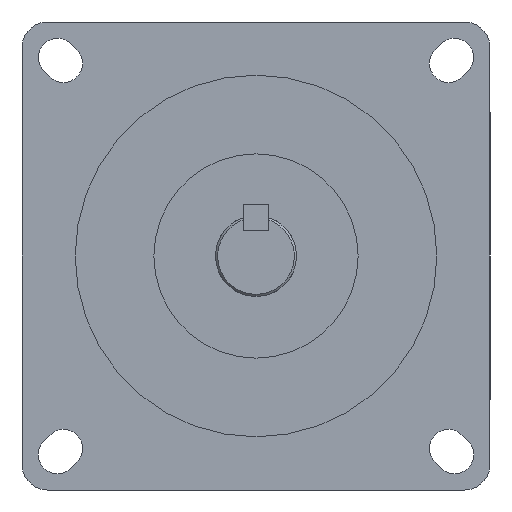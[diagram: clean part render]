
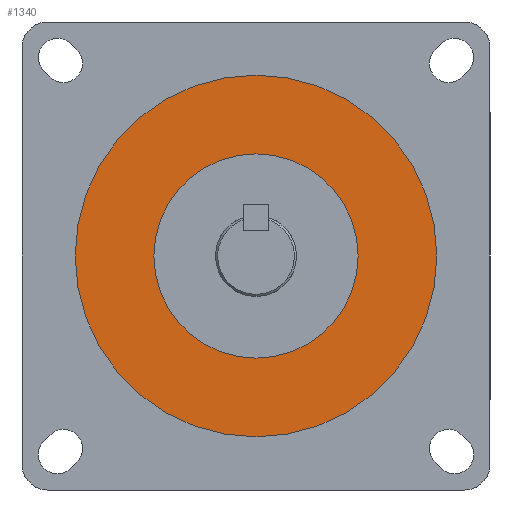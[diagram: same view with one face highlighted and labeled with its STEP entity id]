
A CAD part, left-side view. The second image highlights one B-rep face of the part: STEP entity #1340.
In plain terms, the highlighted planar face has unit normal (-1, 0, 0).
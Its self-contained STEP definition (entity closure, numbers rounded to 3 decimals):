
#14 = ORIENTED_EDGE ( 'NONE', *, *, #438, .F. ) ;
#38 = CARTESIAN_POINT ( 'NONE',  ( -3.5, 0., 0. ) ) ;
#219 = VERTEX_POINT ( 'NONE', #3077 ) ;
#262 = AXIS2_PLACEMENT_3D ( 'NONE', #2986, #2535, #2086 ) ;
#277 = CARTESIAN_POINT ( 'NONE',  ( -3.5, 0., 0. ) ) ;
#310 = AXIS2_PLACEMENT_3D ( 'NONE', #277, #4159, #3719 ) ;
#339 = AXIS2_PLACEMENT_3D ( 'NONE', #358, #4239, #3804 ) ;
#358 = CARTESIAN_POINT ( 'NONE',  ( -3.5, 0., 0. ) ) ;
#367 = FACE_BOUND ( 'NONE', #2249, .T. ) ;
#386 = VERTEX_POINT ( 'NONE', #585 ) ;
#438 = EDGE_CURVE ( 'NONE', #2915, #219, #4322, .T. ) ;
#585 = CARTESIAN_POINT ( 'NONE',  ( -3.5, 0., -42.5 ) ) ;
#615 = CARTESIAN_POINT ( 'NONE',  ( -3.5, 0., 42.5 ) ) ;
#841 = FACE_OUTER_BOUND ( 'NONE', #3035, .T. ) ;
#849 = VERTEX_POINT ( 'NONE', #615 ) ;
#986 = ORIENTED_EDGE ( 'NONE', *, *, #1557, .T. ) ;
#1340 = ADVANCED_FACE ( 'NONE', ( #841, #367 ), #3460, .T. ) ;
#1349 = CIRCLE ( 'NONE', #339, 24. ) ;
#1505 = DIRECTION ( 'NONE',  ( 0., 0., 1. ) ) ;
#1557 = EDGE_CURVE ( 'NONE', #849, #386, #3395, .T. ) ;
#1929 = DIRECTION ( 'NONE',  ( -1., 0., 0. ) ) ;
#2086 = DIRECTION ( 'NONE',  ( 0., 0., 1. ) ) ;
#2123 = DIRECTION ( 'NONE',  ( 0., 0., 1. ) ) ;
#2249 = EDGE_LOOP ( 'NONE', ( #3817, #14 ) ) ;
#2380 = CARTESIAN_POINT ( 'NONE',  ( -3.5, 0., 0. ) ) ;
#2440 = AXIS2_PLACEMENT_3D ( 'NONE', #2380, #1929, #1505 ) ;
#2535 = DIRECTION ( 'NONE',  ( -1., 0., 0. ) ) ;
#2565 = DIRECTION ( 'NONE',  ( -1., 0., 0. ) ) ;
#2732 = AXIS2_PLACEMENT_3D ( 'NONE', #38, #2565, #2123 ) ;
#2915 = VERTEX_POINT ( 'NONE', #2969 ) ;
#2969 = CARTESIAN_POINT ( 'NONE',  ( -3.5, 0., 24. ) ) ;
#2986 = CARTESIAN_POINT ( 'NONE',  ( -3.5, 0., 0. ) ) ;
#3035 = EDGE_LOOP ( 'NONE', ( #3617, #986 ) ) ;
#3077 = CARTESIAN_POINT ( 'NONE',  ( -3.5, 0., -24. ) ) ;
#3099 = EDGE_CURVE ( 'NONE', #386, #849, #3544, .T. ) ;
#3383 = EDGE_CURVE ( 'NONE', #219, #2915, #1349, .T. ) ;
#3395 = CIRCLE ( 'NONE', #2440, 42.5 ) ;
#3460 = PLANE ( 'NONE',  #262 ) ;
#3544 = CIRCLE ( 'NONE', #2732, 42.5 ) ;
#3617 = ORIENTED_EDGE ( 'NONE', *, *, #3099, .T. ) ;
#3719 = DIRECTION ( 'NONE',  ( 0., 0., 1. ) ) ;
#3804 = DIRECTION ( 'NONE',  ( 0., 0., 1. ) ) ;
#3817 = ORIENTED_EDGE ( 'NONE', *, *, #3383, .F. ) ;
#4159 = DIRECTION ( 'NONE',  ( -1., 0., 0. ) ) ;
#4239 = DIRECTION ( 'NONE',  ( -1., 0., 0. ) ) ;
#4322 = CIRCLE ( 'NONE', #310, 24. ) ;
